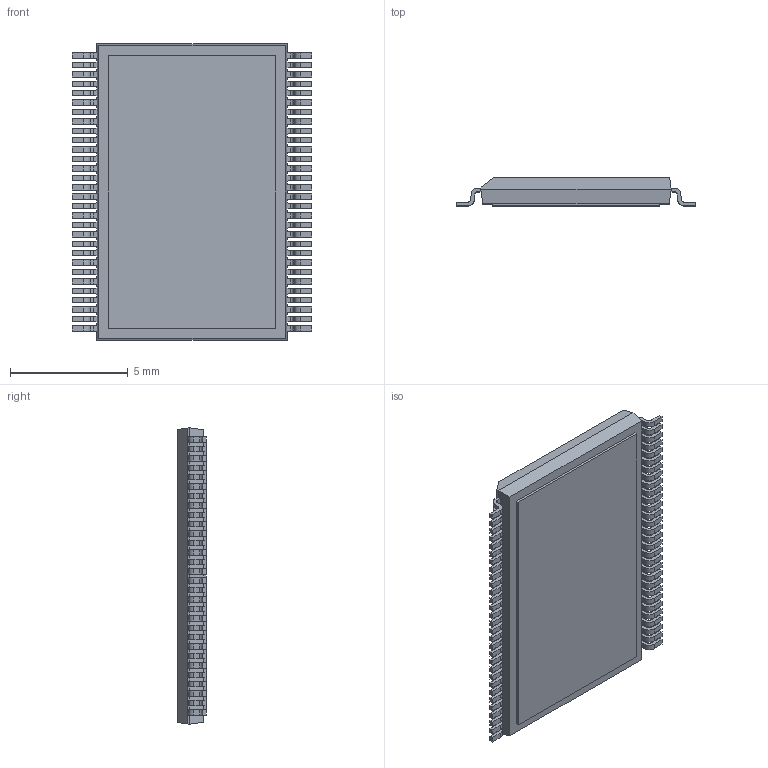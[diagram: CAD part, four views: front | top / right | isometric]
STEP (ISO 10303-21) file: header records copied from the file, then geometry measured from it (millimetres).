
FILE_DESCRIPTION (( 'STEP AP214' ), '1' );
FILE_NAME ('TSSOP40P1000X120-60TP_MO-153.JCT-1.STEP', '2014-10-29T08:22:15', ( 'Tester2' ), ( '' ), 'SwSTEP 2.0', 'SolidWorks 2012', '' );
FILE_SCHEMA (( 'AUTOMOTIVE_DESIGN' ));
Length unit declared in the file: millimetre
Products named in the file (1): TSSOP40P1000X120-60TP_MO-153.JCT-1
Bounding box: 10.2 x 1.2 x 12.6 mm (x, y, z)
Volume: 120.6 mm3; surface area: 311.3 mm2
Topology: 1 solids, 1 shells, 799 faces, 2381 edges, 1586 vertices
Faces by surface type: plane 557, cylinder 242
Entity records: 35429 total; most frequent: CARTESIAN_POINT 4767, ORIENTED_EDGE 4762, DIRECTION 4465, EDGE_CURVE 2381, LINE 1897, VECTOR 1897, VERTEX_POINT 1586, AXIS2_PLACEMENT_3D 1284
